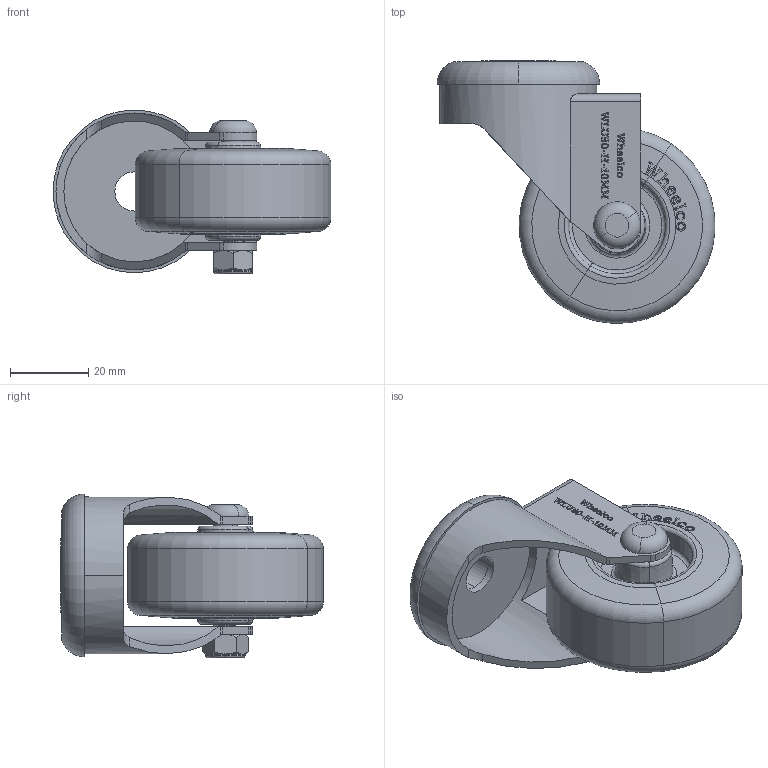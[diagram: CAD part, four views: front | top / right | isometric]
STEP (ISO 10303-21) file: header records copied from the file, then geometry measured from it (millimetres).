
FILE_DESCRIPTION (( 'STEP AP214' ), '1' );
FILE_NAME ('WLU50-H-10MM.step', '2024-01-15T01:50:34', ( '' ), ( '' ), 'SwSTEP 2.0', 'SolidWorks 2022', '' );
FILE_SCHEMA (( 'AUTOMOTIVE_DESIGN' ));
Length unit declared in the file: millimetre
Products named in the file (6): 41.5 CAP; WLU50-H-10MM; WLU50; M6NYLOC-WHITE; WL bolt 40mm-6mm dia
Assembly tree (5 placements, depth 2):
  WLU50-H-10MM
    WLU50-H-10MM
    41.5 CAP
    M6NYLOC-WHITE
    WL bolt 40mm-6mm dia
    WLU50
Bounding box: 70.88 x 66.95 x 41.8 mm (x, y, z)
Volume: 52199.1 mm3; surface area: 22651.8 mm2
Topology: 5 solids, 5 shells, 786 faces, 2110 edges, 1378 vertices
Faces by surface type: plane 430, bspline 206, cylinder 80, torus 36, cone 32, sphere 2
Entity records: 38089 total; most frequent: CARTESIAN_POINT 19551, ORIENTED_EDGE 4216, DIRECTION 2834, EDGE_CURVE 2108, VERTEX_POINT 1378, LINE 1284, VECTOR 1284, EDGE_LOOP 844
